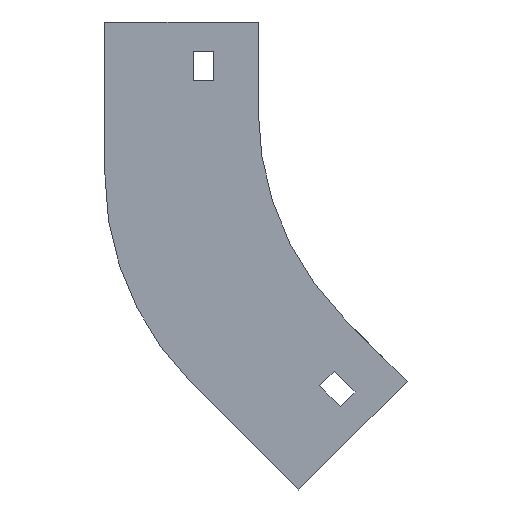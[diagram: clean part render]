
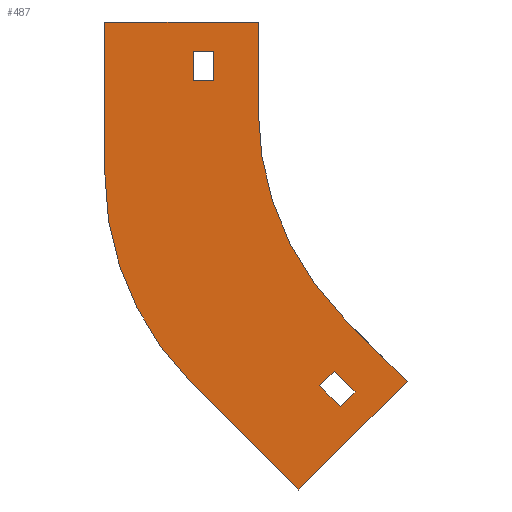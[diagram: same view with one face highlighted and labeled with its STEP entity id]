
A CAD part, left-side view. The second image highlights one B-rep face of the part: STEP entity #487.
In plain terms, the highlighted planar face has unit normal (-1, 0, 0).
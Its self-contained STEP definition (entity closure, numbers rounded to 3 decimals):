
#20 = FACE_BOUND ( 'NONE', #223, .T. ) ;
#22 = VERTEX_POINT ( 'NONE', #997 ) ;
#26 = CARTESIAN_POINT ( 'NONE',  ( -52., -13.733, -158.693 ) ) ;
#33 = DIRECTION ( 'NONE',  ( 0., -1., 0. ) ) ;
#36 = CARTESIAN_POINT ( 'NONE',  ( -52., 22., -10. ) ) ;
#41 = VECTOR ( 'NONE', #1086, 1000. ) ;
#49 = CARTESIAN_POINT ( 'NONE',  ( -52., 52., -51.539 ) ) ;
#59 = CARTESIAN_POINT ( 'NONE',  ( -52., -25.754, -118.388 ) ) ;
#62 = DIRECTION ( 'NONE',  ( 0., 0.707, -0.707 ) ) ;
#74 = EDGE_CURVE ( 'NONE', #757, #651, #1135, .T. ) ;
#80 = EDGE_CURVE ( 'NONE', #643, #187, #496, .T. ) ;
#111 = ORIENTED_EDGE ( 'NONE', *, *, #724, .F. ) ;
#115 = VERTEX_POINT ( 'NONE', #1140 ) ;
#126 = CARTESIAN_POINT ( 'NONE',  ( -52., -100., -30. ) ) ;
#136 = DIRECTION ( 'NONE',  ( 0., 0., 1. ) ) ;
#142 = LINE ( 'NONE', #1324, #1377 ) ;
#145 = EDGE_CURVE ( 'NONE', #1351, #643, #820, .T. ) ;
#149 = VERTEX_POINT ( 'NONE', #720 ) ;
#166 = LINE ( 'NONE', #49, #246 ) ;
#173 = CARTESIAN_POINT ( 'NONE',  ( -52., 0., 0. ) ) ;
#174 = CARTESIAN_POINT ( 'NONE',  ( -52., -13.733, -158.693 ) ) ;
#187 = VERTEX_POINT ( 'NONE', #1173 ) ;
#188 = ORIENTED_EDGE ( 'NONE', *, *, #513, .F. ) ;
#192 = DIRECTION ( 'NONE',  ( -1., 0., 0. ) ) ;
#199 = CARTESIAN_POINT ( 'NONE',  ( -52., 22.711, -122.25 ) ) ;
#203 = ORIENTED_EDGE ( 'NONE', *, *, #74, .F. ) ;
#215 = CARTESIAN_POINT ( 'NONE',  ( -52., -29.289, -100.711 ) ) ;
#223 = EDGE_LOOP ( 'NONE', ( #433, #244, #971, #947 ) ) ;
#235 = ORIENTED_EDGE ( 'NONE', *, *, #1228, .F. ) ;
#244 = ORIENTED_EDGE ( 'NONE', *, *, #263, .T. ) ;
#246 = VECTOR ( 'NONE', #481, 1000. ) ;
#263 = EDGE_CURVE ( 'NONE', #376, #652, #733, .T. ) ;
#264 = DIRECTION ( 'NONE',  ( 0., -0.707, -0.707 ) ) ;
#296 = VECTOR ( 'NONE', #1205, 1000. ) ;
#300 = DIRECTION ( 'NONE',  ( 0., 0., 1. ) ) ;
#340 = VECTOR ( 'NONE', #136, 1000. ) ;
#376 = VERTEX_POINT ( 'NONE', #529 ) ;
#385 = CARTESIAN_POINT ( 'NONE',  ( -52., 52., 0. ) ) ;
#388 = ORIENTED_EDGE ( 'NONE', *, *, #1116, .F. ) ;
#396 = DIRECTION ( 'NONE',  ( 0., 0., -1. ) ) ;
#407 = CARTESIAN_POINT ( 'NONE',  ( -52., -27.875, -130.409 ) ) ;
#421 = CARTESIAN_POINT ( 'NONE',  ( -52., 22., -20. ) ) ;
#433 = ORIENTED_EDGE ( 'NONE', *, *, #919, .T. ) ;
#436 = VERTEX_POINT ( 'NONE', #36 ) ;
#443 = EDGE_LOOP ( 'NONE', ( #506, #610, #235, #584, #388, #203, #111, #544 ) ) ;
#460 = CARTESIAN_POINT ( 'NONE',  ( -52., -20.804, -123.338 ) ) ;
#467 = FACE_BOUND ( 'NONE', #817, .T. ) ;
#469 = VECTOR ( 'NONE', #739, 1000. ) ;
#481 = DIRECTION ( 'NONE',  ( 0., 0., 1. ) ) ;
#483 = DIRECTION ( 'NONE',  ( 0., 0., -1. ) ) ;
#487 = ADVANCED_FACE ( 'NONE', ( #20, #771, #467 ), #675, .T. ) ;
#492 = EDGE_CURVE ( 'NONE', #115, #436, #1104, .T. ) ;
#496 = LINE ( 'NONE', #173, #1309 ) ;
#504 = CARTESIAN_POINT ( 'NONE',  ( -52., -50.503, -121.924 ) ) ;
#506 = ORIENTED_EDGE ( 'NONE', *, *, #145, .F. ) ;
#513 = EDGE_CURVE ( 'NONE', #561, #149, #777, .T. ) ;
#526 = CARTESIAN_POINT ( 'NONE',  ( -52., 15., -10. ) ) ;
#529 = CARTESIAN_POINT ( 'NONE',  ( -52., 15., -10. ) ) ;
#544 = ORIENTED_EDGE ( 'NONE', *, *, #80, .F. ) ;
#548 = VERTEX_POINT ( 'NONE', #174 ) ;
#561 = VERTEX_POINT ( 'NONE', #59 ) ;
#581 = DIRECTION ( 'NONE',  ( -1., 0., 0. ) ) ;
#584 = ORIENTED_EDGE ( 'NONE', *, *, #886, .F. ) ;
#595 = DIRECTION ( 'NONE',  ( 0., -0.707, -0.707 ) ) ;
#610 = ORIENTED_EDGE ( 'NONE', *, *, #1154, .F. ) ;
#613 = LINE ( 'NONE', #692, #1331 ) ;
#615 = CARTESIAN_POINT ( 'NONE',  ( -52., -29.289, -100.711 ) ) ;
#621 = CARTESIAN_POINT ( 'NONE',  ( -52., -100., -30. ) ) ;
#643 = VERTEX_POINT ( 'NONE', #1031 ) ;
#651 = VERTEX_POINT ( 'NONE', #504 ) ;
#652 = VERTEX_POINT ( 'NONE', #1005 ) ;
#668 = CARTESIAN_POINT ( 'NONE',  ( -52., 22., -10. ) ) ;
#672 = CIRCLE ( 'NONE', #1193, 100. ) ;
#675 = PLANE ( 'NONE',  #1082 ) ;
#692 = CARTESIAN_POINT ( 'NONE',  ( -52., -50.503, -121.924 ) ) ;
#711 = CARTESIAN_POINT ( 'NONE',  ( -52., -27.875, -130.409 ) ) ;
#720 = CARTESIAN_POINT ( 'NONE',  ( -52., -20.804, -123.338 ) ) ;
#724 = EDGE_CURVE ( 'NONE', #187, #757, #892, .T. ) ;
#733 = LINE ( 'NONE', #526, #896 ) ;
#739 = DIRECTION ( 'NONE',  ( 0., 0.707, 0.707 ) ) ;
#757 = VERTEX_POINT ( 'NONE', #215 ) ;
#769 = AXIS2_PLACEMENT_3D ( 'NONE', #621, #192, #300 ) ;
#771 = FACE_OUTER_BOUND ( 'NONE', #443, .T. ) ;
#775 = LINE ( 'NONE', #26, #41 ) ;
#777 = LINE ( 'NONE', #460, #296 ) ;
#784 = VERTEX_POINT ( 'NONE', #199 ) ;
#796 = VERTEX_POINT ( 'NONE', #1385 ) ;
#817 = EDGE_LOOP ( 'NONE', ( #861, #1070, #1025, #188 ) ) ;
#819 = LINE ( 'NONE', #1041, #469 ) ;
#820 = LINE ( 'NONE', #385, #1078 ) ;
#824 = VECTOR ( 'NONE', #1275, 1000. ) ;
#861 = ORIENTED_EDGE ( 'NONE', *, *, #1222, .F. ) ;
#871 = CARTESIAN_POINT ( 'NONE',  ( -52., 52., 0. ) ) ;
#886 = EDGE_CURVE ( 'NONE', #548, #784, #775, .T. ) ;
#892 = CIRCLE ( 'NONE', #769, 100. ) ;
#896 = VECTOR ( 'NONE', #1165, 1000. ) ;
#919 = EDGE_CURVE ( 'NONE', #436, #376, #142, .T. ) ;
#927 = DIRECTION ( 'NONE',  ( 1., 0., 0. ) ) ;
#943 = LINE ( 'NONE', #421, #824 ) ;
#947 = ORIENTED_EDGE ( 'NONE', *, *, #492, .T. ) ;
#957 = VECTOR ( 'NONE', #264, 1000. ) ;
#971 = ORIENTED_EDGE ( 'NONE', *, *, #1189, .T. ) ;
#997 = CARTESIAN_POINT ( 'NONE',  ( -52., 52., -51.539 ) ) ;
#1005 = CARTESIAN_POINT ( 'NONE',  ( -52., 15., -20. ) ) ;
#1025 = ORIENTED_EDGE ( 'NONE', *, *, #1079, .F. ) ;
#1029 = LINE ( 'NONE', #711, #1170 ) ;
#1031 = CARTESIAN_POINT ( 'NONE',  ( -52., 0., 0. ) ) ;
#1041 = CARTESIAN_POINT ( 'NONE',  ( -52., -32.825, -125.459 ) ) ;
#1064 = EDGE_CURVE ( 'NONE', #1183, #796, #1029, .T. ) ;
#1070 = ORIENTED_EDGE ( 'NONE', *, *, #1064, .F. ) ;
#1078 = VECTOR ( 'NONE', #1236, 1000. ) ;
#1079 = EDGE_CURVE ( 'NONE', #149, #1183, #1242, .T. ) ;
#1082 = AXIS2_PLACEMENT_3D ( 'NONE', #126, #581, #1319 ) ;
#1086 = DIRECTION ( 'NONE',  ( 0., 0.707, 0.707 ) ) ;
#1104 = LINE ( 'NONE', #668, #340 ) ;
#1116 = EDGE_CURVE ( 'NONE', #651, #548, #613, .T. ) ;
#1131 = VECTOR ( 'NONE', #595, 1000. ) ;
#1134 = CARTESIAN_POINT ( 'NONE',  ( -52., -27.875, -130.409 ) ) ;
#1135 = LINE ( 'NONE', #615, #1131 ) ;
#1140 = CARTESIAN_POINT ( 'NONE',  ( -52., 22., -20. ) ) ;
#1143 = DIRECTION ( 'NONE',  ( 0., -0.707, 0.707 ) ) ;
#1154 = EDGE_CURVE ( 'NONE', #22, #1351, #166, .T. ) ;
#1165 = DIRECTION ( 'NONE',  ( 0., 0., -1. ) ) ;
#1170 = VECTOR ( 'NONE', #1143, 1000. ) ;
#1173 = CARTESIAN_POINT ( 'NONE',  ( -52., 0., -30. ) ) ;
#1183 = VERTEX_POINT ( 'NONE', #407 ) ;
#1189 = EDGE_CURVE ( 'NONE', #652, #115, #943, .T. ) ;
#1193 = AXIS2_PLACEMENT_3D ( 'NONE', #1397, #927, #396 ) ;
#1205 = DIRECTION ( 'NONE',  ( 0., 0.707, -0.707 ) ) ;
#1222 = EDGE_CURVE ( 'NONE', #796, #561, #819, .T. ) ;
#1228 = EDGE_CURVE ( 'NONE', #784, #22, #672, .T. ) ;
#1236 = DIRECTION ( 'NONE',  ( 0., -1., 0. ) ) ;
#1242 = LINE ( 'NONE', #1134, #957 ) ;
#1275 = DIRECTION ( 'NONE',  ( 0., 1., 0. ) ) ;
#1309 = VECTOR ( 'NONE', #483, 1000. ) ;
#1319 = DIRECTION ( 'NONE',  ( 0., 0., 1. ) ) ;
#1324 = CARTESIAN_POINT ( 'NONE',  ( -52., 22., -10. ) ) ;
#1331 = VECTOR ( 'NONE', #62, 1000. ) ;
#1351 = VERTEX_POINT ( 'NONE', #871 ) ;
#1377 = VECTOR ( 'NONE', #33, 1000. ) ;
#1385 = CARTESIAN_POINT ( 'NONE',  ( -52., -32.825, -125.459 ) ) ;
#1397 = CARTESIAN_POINT ( 'NONE',  ( -52., -48., -51.539 ) ) ;
